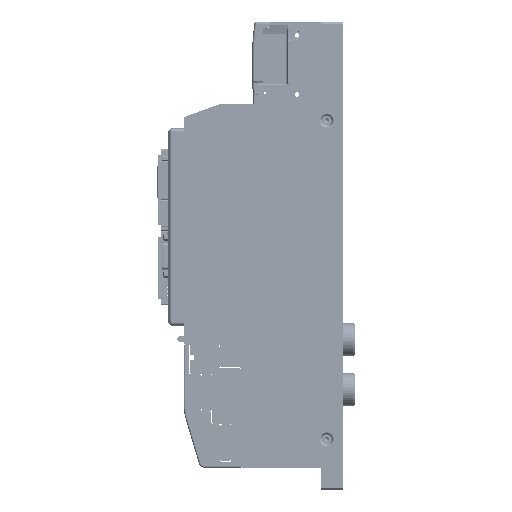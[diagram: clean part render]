
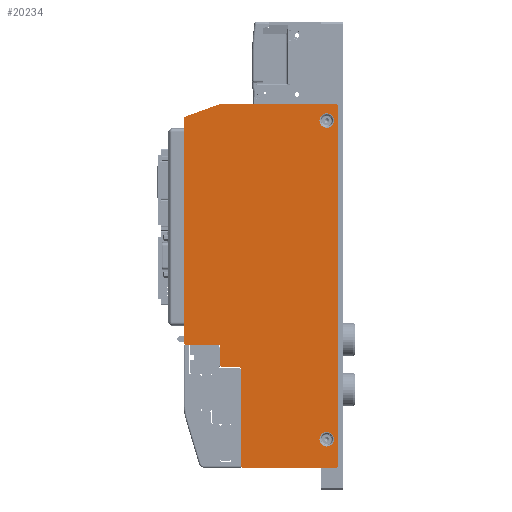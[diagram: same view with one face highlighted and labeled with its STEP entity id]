
A CAD part, left-side view. The second image highlights one B-rep face of the part: STEP entity #20234.
In plain terms, the highlighted planar face has unit normal (-1, 0, 0).
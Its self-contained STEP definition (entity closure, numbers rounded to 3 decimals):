
#15561=CARTESIAN_POINT('',(-97.5,5.,-184.5));
#15562=DIRECTION('',(-1.,0.,0.));
#15563=DIRECTION('',(0.,1.,0.));
#15564=AXIS2_PLACEMENT_3D('',#15561,#15562,#15563);
#15569=CARTESIAN_POINT('',(-97.5,5.,-184.5));
#15570=DIRECTION('',(-1.,0.,0.));
#15571=DIRECTION('',(0.,-1.,0.));
#15572=AXIS2_PLACEMENT_3D('',#15569,#15570,#15571);
#15577=CARTESIAN_POINT('',(-97.5,5.,101.5));
#15578=DIRECTION('',(-1.,0.,0.));
#15579=DIRECTION('',(0.,1.,0.));
#15580=AXIS2_PLACEMENT_3D('',#15577,#15578,#15579);
#15585=CARTESIAN_POINT('',(-97.5,5.,101.5));
#15586=DIRECTION('',(-1.,0.,0.));
#15587=DIRECTION('',(0.,-1.,0.));
#15588=AXIS2_PLACEMENT_3D('',#15585,#15586,#15587);
#15593=DIRECTION('',(0.,0.,1.));
#15594=VECTOR('',#15593,87.);
#15595=CARTESIAN_POINT('',(-97.5,82.,-208.));
#15596=LINE('',#15595,#15594);
#15600=CARTESIAN_POINT('',(-97.5,83.,-121.));
#15601=DIRECTION('',(-1.,0.,0.));
#15602=DIRECTION('',(0.,-1.,0.));
#15603=AXIS2_PLACEMENT_3D('',#15600,#15601,#15602);
#15608=DIRECTION('',(0.,1.,0.));
#15609=VECTOR('',#15608,15.4);
#15610=CARTESIAN_POINT('',(-97.5,83.,-120.));
#15611=LINE('',#15610,#15609);
#15615=CARTESIAN_POINT('',(-97.5,98.4,-118.));
#15616=DIRECTION('',(-1.,0.,0.));
#15617=DIRECTION('',(0.,1.,0.));
#15618=AXIS2_PLACEMENT_3D('',#15615,#15616,#15617);
#15623=DIRECTION('',(0.,0.,1.));
#15624=VECTOR('',#15623,17.5);
#15625=CARTESIAN_POINT('',(-97.5,100.4,-118.));
#15626=LINE('',#15625,#15624);
#15630=CARTESIAN_POINT('',(-97.5,101.4,-100.5));
#15631=DIRECTION('',(-1.,0.,0.));
#15632=DIRECTION('',(0.,-1.,0.));
#15633=AXIS2_PLACEMENT_3D('',#15630,#15631,#15632);
#15638=DIRECTION('',(0.,1.,0.));
#15639=VECTOR('',#15638,30.1);
#15640=CARTESIAN_POINT('',(-97.5,101.4,-99.5));
#15641=LINE('',#15640,#15639);
#15645=CARTESIAN_POINT('',(-97.5,131.5,-97.5));
#15646=DIRECTION('',(-1.,0.,0.));
#15647=DIRECTION('',(0.,1.,0.));
#15648=AXIS2_PLACEMENT_3D('',#15645,#15646,#15647);
#15653=DIRECTION('',(0.,0.,1.));
#15654=VECTOR('',#15653,200.6);
#15655=CARTESIAN_POINT('',(-97.5,133.5,-97.5));
#15656=LINE('',#15655,#15654);
#15660=CARTESIAN_POINT('',(-97.5,131.5,103.1));
#15661=DIRECTION('',(1.,0.,0.));
#15662=DIRECTION('',(0.,1.,0.));
#15663=AXIS2_PLACEMENT_3D('',#15660,#15661,#15662);
#15668=DIRECTION('',(0.,-0.94,0.342));
#15669=VECTOR('',#15668,33.333);
#15670=CARTESIAN_POINT('',(-97.5,132.184,104.979));
#15671=LINE('',#15670,#15669);
#15675=CARTESIAN_POINT('',(-97.5,100.178,114.5));
#15676=DIRECTION('',(1.,0.,0.));
#15677=DIRECTION('',(0.,0.342,0.94));
#15678=AXIS2_PLACEMENT_3D('',#15675,#15676,#15677);
#15683=DIRECTION('',(0.,-1.,0.));
#15684=VECTOR('',#15683,103.178);
#15685=CARTESIAN_POINT('',(-97.5,100.178,116.5));
#15686=LINE('',#15685,#15684);
#15690=CARTESIAN_POINT('',(-97.5,-3.,114.5));
#15691=DIRECTION('',(1.,0.,0.));
#15692=DIRECTION('',(0.,0.,1.));
#15693=AXIS2_PLACEMENT_3D('',#15690,#15691,#15692);
#15698=DIRECTION('',(0.,0.,-1.));
#15699=VECTOR('',#15698,322.5);
#15700=CARTESIAN_POINT('',(-97.5,-5.,114.5));
#15701=LINE('',#15700,#15699);
#15705=CARTESIAN_POINT('',(-97.5,-3.,-208.));
#15706=DIRECTION('',(1.,0.,0.));
#15707=DIRECTION('',(0.,-1.,0.));
#15708=AXIS2_PLACEMENT_3D('',#15705,#15706,#15707);
#15713=DIRECTION('',(0.,1.,0.));
#15714=VECTOR('',#15713,83.);
#15715=CARTESIAN_POINT('',(-97.5,-3.,-210.));
#15716=LINE('',#15715,#15714);
#15720=CARTESIAN_POINT('',(-97.5,80.,-208.));
#15721=DIRECTION('',(-1.,0.,0.));
#15722=DIRECTION('',(0.,1.,0.));
#15723=AXIS2_PLACEMENT_3D('',#15720,#15721,#15722);
#18786=CARTESIAN_POINT('',(-97.5,133.5,-97.5));
#18787=CARTESIAN_POINT('',(-97.5,131.5,-99.5));
#18788=VERTEX_POINT('',#18786);
#18789=VERTEX_POINT('',#18787);
#18822=CARTESIAN_POINT('',(-97.5,11.5,-184.5));
#18823=CARTESIAN_POINT('',(-97.5,-1.5,-184.5));
#18824=VERTEX_POINT('',#18822);
#18825=VERTEX_POINT('',#18823);
#18866=CARTESIAN_POINT('',(-97.5,11.5,101.5));
#18867=CARTESIAN_POINT('',(-97.5,-1.5,101.5));
#18868=VERTEX_POINT('',#18866);
#18869=VERTEX_POINT('',#18867);
#18998=CARTESIAN_POINT('',(-97.5,82.,-208.));
#18999=CARTESIAN_POINT('',(-97.5,82.,-121.));
#19000=VERTEX_POINT('',#18998);
#19001=VERTEX_POINT('',#18999);
#19002=CARTESIAN_POINT('',(-97.5,101.4,-99.5));
#19003=VERTEX_POINT('',#19002);
#19014=CARTESIAN_POINT('',(-97.5,100.4,-100.5));
#19015=VERTEX_POINT('',#19014);
#19018=CARTESIAN_POINT('',(-97.5,83.,-120.));
#19019=VERTEX_POINT('',#19018);
#19026=CARTESIAN_POINT('',(-97.5,-5.,114.5));
#19027=CARTESIAN_POINT('',(-97.5,-3.,116.5));
#19028=VERTEX_POINT('',#19026);
#19029=VERTEX_POINT('',#19027);
#19042=CARTESIAN_POINT('',(-97.5,-3.,-210.));
#19043=CARTESIAN_POINT('',(-97.5,-5.,-208.));
#19044=VERTEX_POINT('',#19042);
#19045=VERTEX_POINT('',#19043);
#19058=CARTESIAN_POINT('',(-97.5,80.,-210.));
#19059=VERTEX_POINT('',#19058);
#19066=CARTESIAN_POINT('',(-97.5,100.4,-118.));
#19067=CARTESIAN_POINT('',(-97.5,98.4,-120.));
#19068=VERTEX_POINT('',#19066);
#19069=VERTEX_POINT('',#19067);
#19154=CARTESIAN_POINT('',(-97.5,133.5,103.1));
#19155=CARTESIAN_POINT('',(-97.5,132.184,104.979));
#19156=VERTEX_POINT('',#19154);
#19157=VERTEX_POINT('',#19155);
#19158=CARTESIAN_POINT('',(-97.5,100.862,116.379));
#19159=VERTEX_POINT('',#19158);
#19160=CARTESIAN_POINT('',(-97.5,100.178,116.5));
#19161=VERTEX_POINT('',#19160);
#20179=CARTESIAN_POINT('',(-97.5,133.5,15.));
#20180=DIRECTION('',(1.,0.,0.));
#20181=DIRECTION('',(0.,0.,-1.));
#20182=AXIS2_PLACEMENT_3D('',#20179,#20180,#20181);
#20183=PLANE('',#20182);
#20185=ORIENTED_EDGE('',*,*,#20184,.T.);
#20187=ORIENTED_EDGE('',*,*,#20186,.T.);
#20189=ORIENTED_EDGE('',*,*,#20188,.T.);
#20191=ORIENTED_EDGE('',*,*,#20190,.F.);
#20193=ORIENTED_EDGE('',*,*,#20192,.T.);
#20195=ORIENTED_EDGE('',*,*,#20194,.T.);
#20197=ORIENTED_EDGE('',*,*,#20196,.T.);
#20199=ORIENTED_EDGE('',*,*,#20198,.F.);
#20201=ORIENTED_EDGE('',*,*,#20200,.T.);
#20203=ORIENTED_EDGE('',*,*,#20202,.T.);
#20205=ORIENTED_EDGE('',*,*,#20204,.T.);
#20207=ORIENTED_EDGE('',*,*,#20206,.T.);
#20209=ORIENTED_EDGE('',*,*,#20208,.T.);
#20211=ORIENTED_EDGE('',*,*,#20210,.T.);
#20213=ORIENTED_EDGE('',*,*,#20212,.T.);
#20215=ORIENTED_EDGE('',*,*,#20214,.T.);
#20217=ORIENTED_EDGE('',*,*,#20216,.T.);
#20219=ORIENTED_EDGE('',*,*,#20218,.F.);
#20220=EDGE_LOOP('',(#20185,#20187,#20189,#20191,#20193,#20195,#20197,#20199,
#20201,#20203,#20205,#20207,#20209,#20211,#20213,#20215,#20217,#20219));
#20221=FACE_OUTER_BOUND('',#20220,.F.);
#20223=ORIENTED_EDGE('',*,*,#20222,.T.);
#20225=ORIENTED_EDGE('',*,*,#20224,.T.);
#20226=EDGE_LOOP('',(#20223,#20225));
#20227=FACE_BOUND('',#20226,.F.);
#20229=ORIENTED_EDGE('',*,*,#20228,.T.);
#20231=ORIENTED_EDGE('',*,*,#20230,.T.);
#20232=EDGE_LOOP('',(#20229,#20231));
#20233=FACE_BOUND('',#20232,.F.);
#20234=ADVANCED_FACE('',(#20221,#20227,#20233),#20183,.F.);
#15565=CIRCLE('',#15564,6.5);
#15573=CIRCLE('',#15572,6.5);
#15581=CIRCLE('',#15580,6.5);
#15589=CIRCLE('',#15588,6.5);
#15604=CIRCLE('',#15603,1.);
#15619=CIRCLE('',#15618,2.);
#15634=CIRCLE('',#15633,1.);
#15649=CIRCLE('',#15648,2.);
#15664=CIRCLE('',#15663,2.);
#15679=CIRCLE('',#15678,2.);
#15694=CIRCLE('',#15693,2.);
#15709=CIRCLE('',#15708,2.);
#15724=CIRCLE('',#15723,2.);
#20184=EDGE_CURVE('',#19000,#19001,#15596,.T.);
#20186=EDGE_CURVE('',#19001,#19019,#15604,.T.);
#20188=EDGE_CURVE('',#19019,#19069,#15611,.T.);
#20190=EDGE_CURVE('',#19068,#19069,#15619,.T.);
#20192=EDGE_CURVE('',#19068,#19015,#15626,.T.);
#20194=EDGE_CURVE('',#19015,#19003,#15634,.T.);
#20196=EDGE_CURVE('',#19003,#18789,#15641,.T.);
#20198=EDGE_CURVE('',#18788,#18789,#15649,.T.);
#20200=EDGE_CURVE('',#18788,#19156,#15656,.T.);
#20202=EDGE_CURVE('',#19156,#19157,#15664,.T.);
#20204=EDGE_CURVE('',#19157,#19159,#15671,.T.);
#20206=EDGE_CURVE('',#19159,#19161,#15679,.T.);
#20208=EDGE_CURVE('',#19161,#19029,#15686,.T.);
#20210=EDGE_CURVE('',#19029,#19028,#15694,.T.);
#20212=EDGE_CURVE('',#19028,#19045,#15701,.T.);
#20214=EDGE_CURVE('',#19045,#19044,#15709,.T.);
#20216=EDGE_CURVE('',#19044,#19059,#15716,.T.);
#20218=EDGE_CURVE('',#19000,#19059,#15724,.T.);
#20222=EDGE_CURVE('',#18824,#18825,#15565,.T.);
#20224=EDGE_CURVE('',#18825,#18824,#15573,.T.);
#20228=EDGE_CURVE('',#18868,#18869,#15581,.T.);
#20230=EDGE_CURVE('',#18869,#18868,#15589,.T.);
